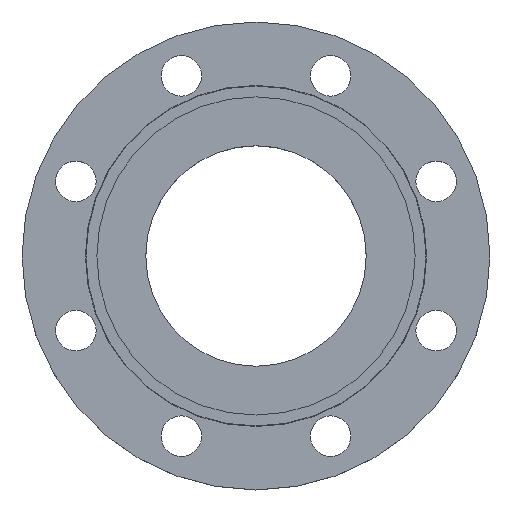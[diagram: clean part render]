
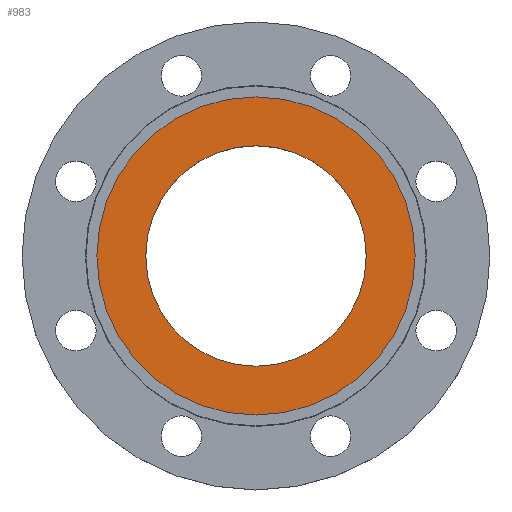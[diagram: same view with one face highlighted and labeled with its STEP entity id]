
A CAD part, top view. The second image highlights one B-rep face of the part: STEP entity #983.
In plain terms, the highlighted planar face has unit normal (0, 0, 1).
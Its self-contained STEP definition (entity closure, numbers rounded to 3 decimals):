
#29 = CARTESIAN_POINT ( 'NONE',  ( 70.67, 0., -4.5 ) ) ;
#40 = AXIS2_PLACEMENT_3D ( 'NONE', #577, #592, #591 ) ;
#65 = CARTESIAN_POINT ( 'NONE',  ( 102., 0., -4.5 ) ) ;
#102 = CIRCLE ( 'NONE', #110, 70.67 ) ;
#110 = AXIS2_PLACEMENT_3D ( 'NONE', #540, #596, #447 ) ;
#132 = CARTESIAN_POINT ( 'NONE',  ( -102., 0., -4.5 ) ) ;
#165 = DIRECTION ( 'NONE',  ( 0., 0., 1. ) ) ;
#214 = CARTESIAN_POINT ( 'NONE',  ( -70.67, 0., -4.5 ) ) ;
#254 = CIRCLE ( 'NONE', #40, 102. ) ;
#366 = AXIS2_PLACEMENT_3D ( 'NONE', #506, #504, #500 ) ;
#371 = CIRCLE ( 'NONE', #366, 102. ) ;
#391 = CARTESIAN_POINT ( 'NONE',  ( 0., 0., -4.5 ) ) ;
#395 = DIRECTION ( 'NONE',  ( 1., 0., 0. ) ) ;
#447 = DIRECTION ( 'NONE',  ( 1., 0., 0. ) ) ;
#453 = AXIS2_PLACEMENT_3D ( 'NONE', #391, #165, #395 ) ;
#460 = CIRCLE ( 'NONE', #453, 70.67 ) ;
#462 = EDGE_CURVE ( 'NONE', #574, #943, #460, .T. ) ;
#475 = EDGE_CURVE ( 'NONE', #655, #722, #254, .T. ) ;
#476 = EDGE_CURVE ( 'NONE', #943, #574, #102, .T. ) ;
#500 = DIRECTION ( 'NONE',  ( -1., 0., 0. ) ) ;
#504 = DIRECTION ( 'NONE',  ( 0., 0., -1. ) ) ;
#506 = CARTESIAN_POINT ( 'NONE',  ( 0., 0., -4.5 ) ) ;
#532 = DIRECTION ( 'NONE',  ( 1., 0., 0. ) ) ;
#537 = DIRECTION ( 'NONE',  ( 0., 0., 1. ) ) ;
#539 = CARTESIAN_POINT ( 'NONE',  ( 102., 0., -4.5 ) ) ;
#540 = CARTESIAN_POINT ( 'NONE',  ( 0., 0., -4.5 ) ) ;
#544 = PLANE ( 'NONE',  #834 ) ;
#545 = FACE_OUTER_BOUND ( 'NONE', #731, .T. ) ;
#549 = FACE_BOUND ( 'NONE', #679, .T. ) ;
#574 = VERTEX_POINT ( 'NONE', #214 ) ;
#577 = CARTESIAN_POINT ( 'NONE',  ( 0., 0., -4.5 ) ) ;
#591 = DIRECTION ( 'NONE',  ( -1., 0., 0. ) ) ;
#592 = DIRECTION ( 'NONE',  ( 0., 0., -1. ) ) ;
#596 = DIRECTION ( 'NONE',  ( 0., 0., 1. ) ) ;
#655 = VERTEX_POINT ( 'NONE', #132 ) ;
#679 = EDGE_LOOP ( 'NONE', ( #1026, #1029 ) ) ;
#722 = VERTEX_POINT ( 'NONE', #65 ) ;
#731 = EDGE_LOOP ( 'NONE', ( #1030, #1032 ) ) ;
#834 = AXIS2_PLACEMENT_3D ( 'NONE', #539, #537, #532 ) ;
#943 = VERTEX_POINT ( 'NONE', #29 ) ;
#983 = ADVANCED_FACE ( 'NONE', ( #549, #545 ), #544, .T. ) ;
#995 = EDGE_CURVE ( 'NONE', #722, #655, #371, .T. ) ;
#1026 = ORIENTED_EDGE ( 'NONE', *, *, #476, .F. ) ;
#1029 = ORIENTED_EDGE ( 'NONE', *, *, #462, .F. ) ;
#1030 = ORIENTED_EDGE ( 'NONE', *, *, #475, .F. ) ;
#1032 = ORIENTED_EDGE ( 'NONE', *, *, #995, .F. ) ;
